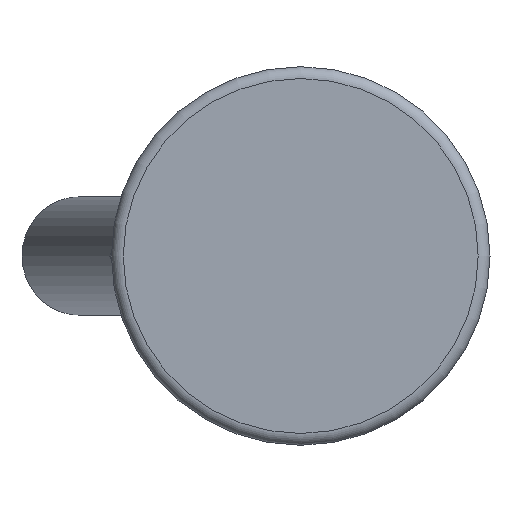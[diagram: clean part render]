
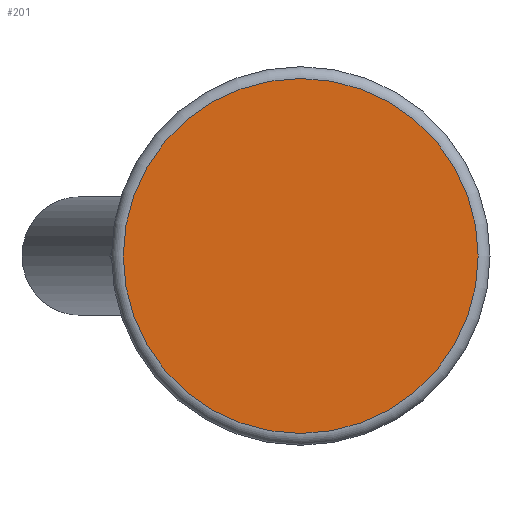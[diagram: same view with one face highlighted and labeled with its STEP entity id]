
A CAD part, front view. The second image highlights one B-rep face of the part: STEP entity #201.
In plain terms, the highlighted planar face has unit normal (0, -1, 0).
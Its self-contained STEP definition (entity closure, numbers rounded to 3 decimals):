
#201 = ADVANCED_FACE( '', ( #384 ), #385, .F. );
#384 = FACE_OUTER_BOUND( '', #566, .T. );
#385 = PLANE( '', #567 );
#566 = EDGE_LOOP( '', ( #883 ) );
#567 = AXIS2_PLACEMENT_3D( '', #884, #885, #886 );
#883 = ORIENTED_EDGE( '', *, *, #1064, .T. );
#884 = CARTESIAN_POINT( '', ( 15., 0., 0. ) );
#885 = DIRECTION( '', ( 0., 1., 0. ) );
#886 = DIRECTION( '', ( 0., 0., 1. ) );
#1064 = EDGE_CURVE( '', #1241, #1241, #1242, .T. );
#1241 = VERTEX_POINT( '', #1604 );
#1242 = CIRCLE( '', #1605, 15. );
#1604 = CARTESIAN_POINT( '', ( 0., 0., -15. ) );
#1605 = AXIS2_PLACEMENT_3D( '', #1857, #1858, #1859 );
#1857 = CARTESIAN_POINT( '', ( 0., 0., 0. ) );
#1858 = DIRECTION( '', ( 0., -1., 0. ) );
#1859 = DIRECTION( '', ( 0., 0., -1. ) );
